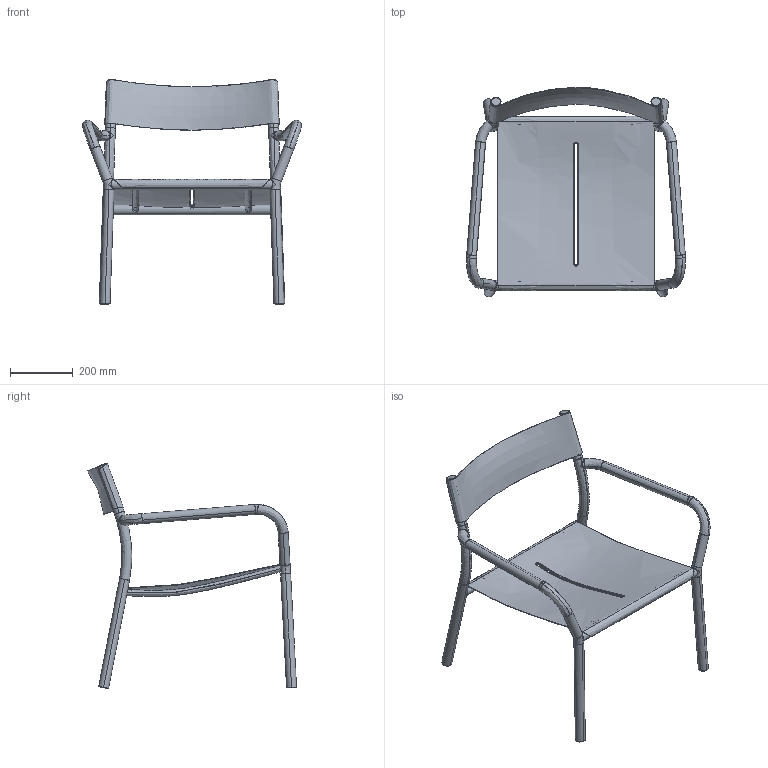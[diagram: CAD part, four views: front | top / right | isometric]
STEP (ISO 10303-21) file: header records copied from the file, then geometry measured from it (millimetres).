
FILE_DESCRIPTION(/* description */ (''),/* implementation_level */ '2;1');
FILE_NAME(/* name */ 'May Lounge Chair',/* time_stamp */ '2026-01-20T11:20:39+01:00',/* author */ (''),/* organization */ (''),/* preprocessor_version */ 'ST-DEVELOPER v19.2',/* originating_system */ 'Rhino 8.25',/* authorisation */ '');
FILE_SCHEMA (('CONFIG_CONTROL_DESIGN'));
Length unit declared in the file: millimetre
Products named in the file (1): Document
Bounding box: 700.08 x 668.59 x 719.48 mm (x, y, z)
Volume: 1723067 mm3; surface area: 1792929.7 mm2
Topology: 12 solids, 12 shells, 186 faces, 484 edges, 318 vertices
Faces by surface type: bspline 104, cylinder 62, plane 20
Entity records: 16634 total; most frequent: CARTESIAN_POINT 12534, ORIENTED_EDGE 968, DIRECTION 530, EDGE_CURVE 484, VERTEX_POINT 318, AXIS2_PLACEMENT_3D 306, B_SPLINE_CURVE_WITH_KNOTS 242, TRIMMED_CURVE 222
